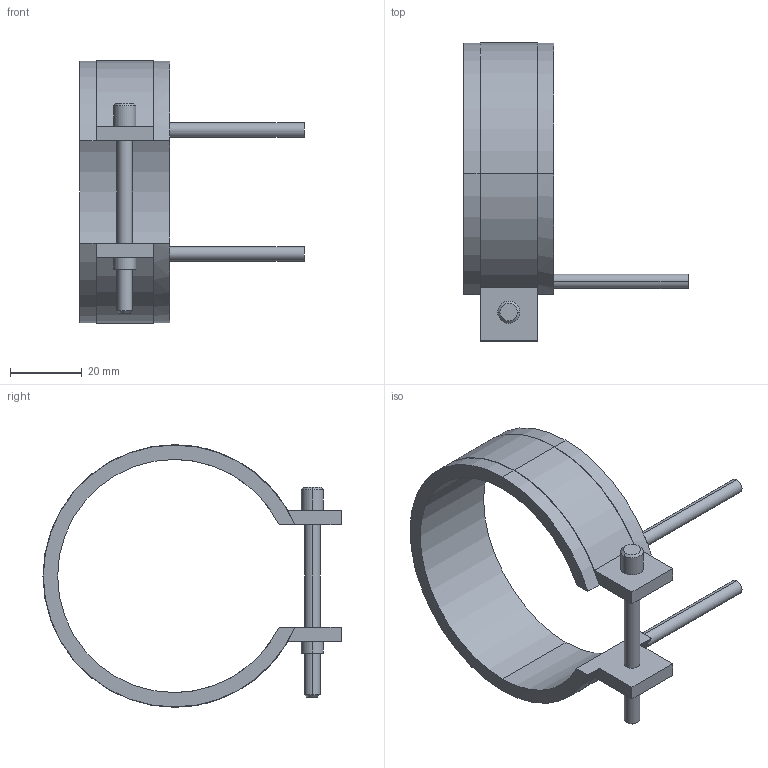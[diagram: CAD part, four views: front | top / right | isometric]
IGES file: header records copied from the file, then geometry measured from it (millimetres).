
Start section: START RECORD GO HERE.
Global section: file name: 14065025.igs; native system: DASSAULT SYSTEMES CATIA V5 R20 - www.3ds.com; preprocessor: CATIA Version 5 Release 20 ; author: Utente; organization: NB04-ASUS; date: 20210403.095802; units: millimetre
Bounding box: 62.5 x 83.1 x 73.2 mm (x, y, z)
Surface area: 13871.8 mm2 (no closed solid volume)
Topology: 0 solids, 0 shells, 45 faces, 232 edges, 232 vertices
Faces by surface type: revolution 28, plane 17
